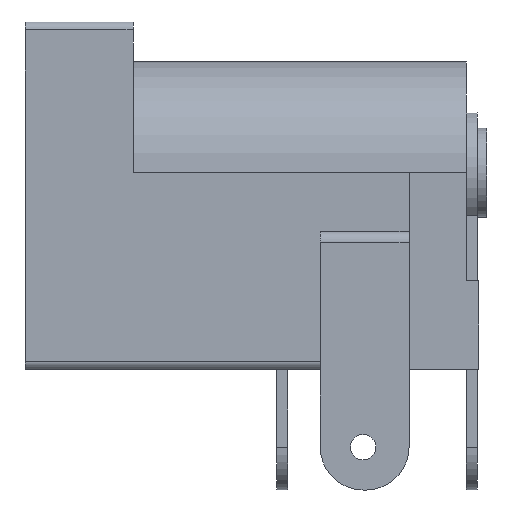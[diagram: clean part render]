
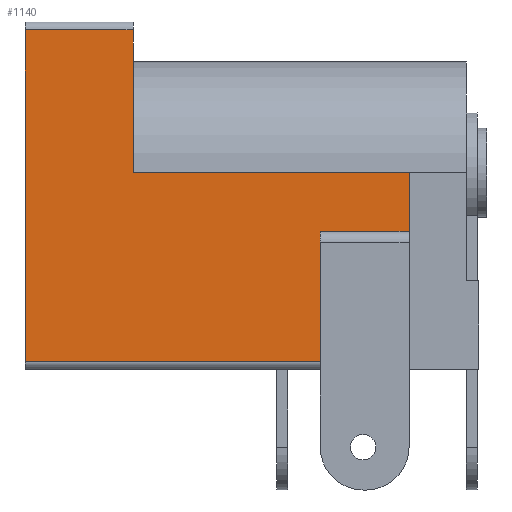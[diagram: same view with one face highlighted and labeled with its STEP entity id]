
A CAD part, left-side view. The second image highlights one B-rep face of the part: STEP entity #1140.
In plain terms, the highlighted planar face has unit normal (-1, 0, 0).
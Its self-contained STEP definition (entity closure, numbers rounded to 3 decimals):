
#143=FACE_OUTER_BOUND('',#210,.T.);
#210=EDGE_LOOP('',(#846,#847,#848,#849,#850,#851));
#290=LINE('',#1753,#403);
#299=LINE('',#1779,#412);
#307=LINE('',#1799,#420);
#311=LINE('',#1805,#424);
#314=LINE('',#1813,#427);
#315=LINE('',#1815,#428);
#403=VECTOR('',#1402,10.);
#412=VECTOR('',#1421,10.);
#420=VECTOR('',#1443,10.);
#424=VECTOR('',#1451,10.);
#427=VECTOR('',#1458,10.);
#428=VECTOR('',#1461,10.);
#513=VERTEX_POINT('',#1750);
#514=VERTEX_POINT('',#1752);
#525=VERTEX_POINT('',#1776);
#526=VERTEX_POINT('',#1778);
#530=VERTEX_POINT('',#1796);
#533=VERTEX_POINT('',#1808);
#625=EDGE_CURVE('',#514,#513,#290,.T.);
#637=EDGE_CURVE('',#526,#525,#299,.T.);
#648=EDGE_CURVE('',#525,#530,#307,.T.);
#652=EDGE_CURVE('',#514,#530,#311,.T.);
#656=EDGE_CURVE('',#526,#533,#314,.T.);
#657=EDGE_CURVE('',#533,#513,#315,.T.);
#846=ORIENTED_EDGE('',*,*,#657,.F.);
#847=ORIENTED_EDGE('',*,*,#656,.F.);
#848=ORIENTED_EDGE('',*,*,#637,.T.);
#849=ORIENTED_EDGE('',*,*,#648,.T.);
#850=ORIENTED_EDGE('',*,*,#652,.F.);
#851=ORIENTED_EDGE('',*,*,#625,.T.);
#1094=PLANE('',#1268);
#1140=ADVANCED_FACE('',(#143),#1094,.F.);
#1268=AXIS2_PLACEMENT_3D('',#1814,#1459,#1460);
#1402=DIRECTION('',(0.,0.,-1.));
#1421=DIRECTION('',(0.,1.,0.));
#1443=DIRECTION('',(0.,0.,1.));
#1451=DIRECTION('',(0.,-1.,0.));
#1458=DIRECTION('',(0.,0.,-1.));
#1459=DIRECTION('center_axis',(1.,0.,0.));
#1460=DIRECTION('ref_axis',(0.,0.,1.));
#1461=DIRECTION('',(0.,1.,0.));
#1750=CARTESIAN_POINT('',(-8.95,0.,0.25));
#1752=CARTESIAN_POINT('',(-8.95,0.,10.7));
#1753=CARTESIAN_POINT('',(-8.95,0.,5.475));
#1776=CARTESIAN_POINT('',(-8.95,-3.4,6.2));
#1778=CARTESIAN_POINT('',(-8.95,-12.1,6.2));
#1779=CARTESIAN_POINT('',(-8.95,-6.9,6.2));
#1796=CARTESIAN_POINT('',(-8.95,-3.4,10.7));
#1799=CARTESIAN_POINT('',(-8.95,-3.4,8.212));
#1805=CARTESIAN_POINT('',(-8.95,-6.05,10.7));
#1808=CARTESIAN_POINT('',(-8.95,-12.1,0.25));
#1813=CARTESIAN_POINT('',(-8.95,-12.1,5.475));
#1814=CARTESIAN_POINT('Origin',(-8.95,-6.05,5.475));
#1815=CARTESIAN_POINT('',(-8.95,-6.05,0.25));
